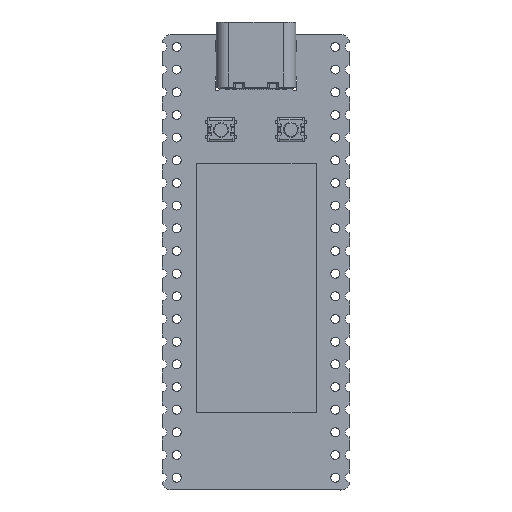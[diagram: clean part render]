
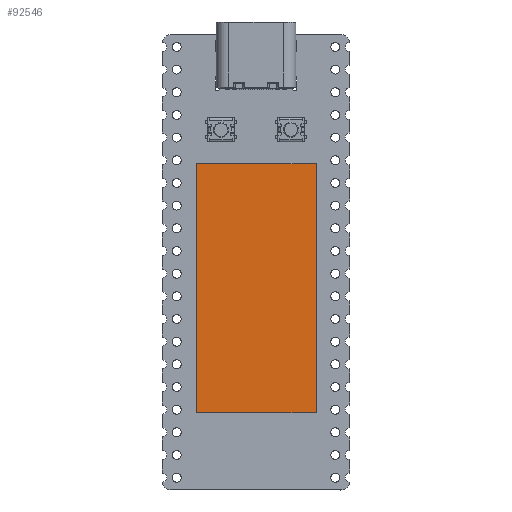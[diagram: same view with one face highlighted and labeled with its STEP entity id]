
A CAD part, top view. The second image highlights one B-rep face of the part: STEP entity #92546.
In plain terms, the highlighted planar face has unit normal (0, 0, 1).
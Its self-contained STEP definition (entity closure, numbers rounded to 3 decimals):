
#92232 = VERTEX_POINT('',#92233);
#92233 = CARTESIAN_POINT('',(-6.715,-13.954,0.425));
#92240 = PLANE('',#92241);
#92241 = AXIS2_PLACEMENT_3D('',#92242,#92243,#92244);
#92242 = CARTESIAN_POINT('',(-6.715,-13.954,0.));
#92243 = DIRECTION('',(-1.,0.,0.));
#92244 = DIRECTION('',(0.,1.,0.));
#92252 = PLANE('',#92253);
#92253 = AXIS2_PLACEMENT_3D('',#92254,#92255,#92256);
#92254 = CARTESIAN_POINT('',(6.715,-13.954,0.));
#92255 = DIRECTION('',(0.,-1.,0.));
#92256 = DIRECTION('',(-1.,0.,0.));
#92264 = EDGE_CURVE('',#92232,#92265,#92267,.T.);
#92265 = VERTEX_POINT('',#92266);
#92266 = CARTESIAN_POINT('',(-6.715,13.954,0.425));
#92267 = SURFACE_CURVE('',#92268,(#92272,#92279),.PCURVE_S1.);
#92268 = LINE('',#92269,#92270);
#92269 = CARTESIAN_POINT('',(-6.715,-13.954,0.425));
#92270 = VECTOR('',#92271,1.);
#92271 = DIRECTION('',(0.,1.,0.));
#92272 = PCURVE('',#92240,#92273);
#92273 = DEFINITIONAL_REPRESENTATION('',(#92274),#92278);
#92274 = LINE('',#92275,#92276);
#92275 = CARTESIAN_POINT('',(0.,-0.425));
#92276 = VECTOR('',#92277,1.);
#92277 = DIRECTION('',(1.,0.));
#92278 = ( GEOMETRIC_REPRESENTATION_CONTEXT(2) 
PARAMETRIC_REPRESENTATION_CONTEXT() REPRESENTATION_CONTEXT('2D SPACE',''
  ) );
#92279 = PCURVE('',#92280,#92285);
#92280 = PLANE('',#92281);
#92281 = AXIS2_PLACEMENT_3D('',#92282,#92283,#92284);
#92282 = CARTESIAN_POINT('',(-6.715,-13.954,0.425));
#92283 = DIRECTION('',(0.,0.,1.));
#92284 = DIRECTION('',(1.,0.,0.));
#92285 = DEFINITIONAL_REPRESENTATION('',(#92286),#92290);
#92286 = LINE('',#92287,#92288);
#92287 = CARTESIAN_POINT('',(0.,0.));
#92288 = VECTOR('',#92289,1.);
#92289 = DIRECTION('',(0.,1.));
#92290 = ( GEOMETRIC_REPRESENTATION_CONTEXT(2) 
PARAMETRIC_REPRESENTATION_CONTEXT() REPRESENTATION_CONTEXT('2D SPACE',''
  ) );
#92308 = PLANE('',#92309);
#92309 = AXIS2_PLACEMENT_3D('',#92310,#92311,#92312);
#92310 = CARTESIAN_POINT('',(-6.715,13.954,0.));
#92311 = DIRECTION('',(0.,1.,0.));
#92312 = DIRECTION('',(1.,0.,0.));
#92350 = EDGE_CURVE('',#92265,#92351,#92353,.T.);
#92351 = VERTEX_POINT('',#92352);
#92352 = CARTESIAN_POINT('',(6.715,13.954,0.425));
#92353 = SURFACE_CURVE('',#92354,(#92358,#92365),.PCURVE_S1.);
#92354 = LINE('',#92355,#92356);
#92355 = CARTESIAN_POINT('',(-6.715,13.954,0.425));
#92356 = VECTOR('',#92357,1.);
#92357 = DIRECTION('',(1.,0.,0.));
#92358 = PCURVE('',#92308,#92359);
#92359 = DEFINITIONAL_REPRESENTATION('',(#92360),#92364);
#92360 = LINE('',#92361,#92362);
#92361 = CARTESIAN_POINT('',(0.,-0.425));
#92362 = VECTOR('',#92363,1.);
#92363 = DIRECTION('',(1.,0.));
#92364 = ( GEOMETRIC_REPRESENTATION_CONTEXT(2) 
PARAMETRIC_REPRESENTATION_CONTEXT() REPRESENTATION_CONTEXT('2D SPACE',''
  ) );
#92365 = PCURVE('',#92280,#92366);
#92366 = DEFINITIONAL_REPRESENTATION('',(#92367),#92371);
#92367 = LINE('',#92368,#92369);
#92368 = CARTESIAN_POINT('',(0.,27.908));
#92369 = VECTOR('',#92370,1.);
#92370 = DIRECTION('',(1.,0.));
#92371 = ( GEOMETRIC_REPRESENTATION_CONTEXT(2) 
PARAMETRIC_REPRESENTATION_CONTEXT() REPRESENTATION_CONTEXT('2D SPACE',''
  ) );
#92389 = PLANE('',#92390);
#92390 = AXIS2_PLACEMENT_3D('',#92391,#92392,#92393);
#92391 = CARTESIAN_POINT('',(6.715,13.954,0.));
#92392 = DIRECTION('',(1.,0.,0.));
#92393 = DIRECTION('',(0.,-1.,0.));
#92426 = EDGE_CURVE('',#92351,#92427,#92429,.T.);
#92427 = VERTEX_POINT('',#92428);
#92428 = CARTESIAN_POINT('',(6.715,-13.954,0.425));
#92429 = SURFACE_CURVE('',#92430,(#92434,#92441),.PCURVE_S1.);
#92430 = LINE('',#92431,#92432);
#92431 = CARTESIAN_POINT('',(6.715,13.954,0.425));
#92432 = VECTOR('',#92433,1.);
#92433 = DIRECTION('',(0.,-1.,0.));
#92434 = PCURVE('',#92389,#92435);
#92435 = DEFINITIONAL_REPRESENTATION('',(#92436),#92440);
#92436 = LINE('',#92437,#92438);
#92437 = CARTESIAN_POINT('',(0.,-0.425));
#92438 = VECTOR('',#92439,1.);
#92439 = DIRECTION('',(1.,0.));
#92440 = ( GEOMETRIC_REPRESENTATION_CONTEXT(2) 
PARAMETRIC_REPRESENTATION_CONTEXT() REPRESENTATION_CONTEXT('2D SPACE',''
  ) );
#92441 = PCURVE('',#92280,#92442);
#92442 = DEFINITIONAL_REPRESENTATION('',(#92443),#92447);
#92443 = LINE('',#92444,#92445);
#92444 = CARTESIAN_POINT('',(13.429,27.908));
#92445 = VECTOR('',#92446,1.);
#92446 = DIRECTION('',(0.,-1.));
#92447 = ( GEOMETRIC_REPRESENTATION_CONTEXT(2) 
PARAMETRIC_REPRESENTATION_CONTEXT() REPRESENTATION_CONTEXT('2D SPACE',''
  ) );
#92497 = EDGE_CURVE('',#92427,#92232,#92498,.T.);
#92498 = SURFACE_CURVE('',#92499,(#92503,#92510),.PCURVE_S1.);
#92499 = LINE('',#92500,#92501);
#92500 = CARTESIAN_POINT('',(6.715,-13.954,0.425));
#92501 = VECTOR('',#92502,1.);
#92502 = DIRECTION('',(-1.,0.,0.));
#92503 = PCURVE('',#92252,#92504);
#92504 = DEFINITIONAL_REPRESENTATION('',(#92505),#92509);
#92505 = LINE('',#92506,#92507);
#92506 = CARTESIAN_POINT('',(0.,-0.425));
#92507 = VECTOR('',#92508,1.);
#92508 = DIRECTION('',(1.,0.));
#92509 = ( GEOMETRIC_REPRESENTATION_CONTEXT(2) 
PARAMETRIC_REPRESENTATION_CONTEXT() REPRESENTATION_CONTEXT('2D SPACE',''
  ) );
#92510 = PCURVE('',#92280,#92511);
#92511 = DEFINITIONAL_REPRESENTATION('',(#92512),#92516);
#92512 = LINE('',#92513,#92514);
#92513 = CARTESIAN_POINT('',(13.429,0.));
#92514 = VECTOR('',#92515,1.);
#92515 = DIRECTION('',(-1.,0.));
#92516 = ( GEOMETRIC_REPRESENTATION_CONTEXT(2) 
PARAMETRIC_REPRESENTATION_CONTEXT() REPRESENTATION_CONTEXT('2D SPACE',''
  ) );
#92546 = ADVANCED_FACE('',(#92547),#92280,.T.);
#92547 = FACE_BOUND('',#92548,.F.);
#92548 = EDGE_LOOP('',(#92549,#92550,#92551,#92552));
#92549 = ORIENTED_EDGE('',*,*,#92264,.T.);
#92550 = ORIENTED_EDGE('',*,*,#92350,.T.);
#92551 = ORIENTED_EDGE('',*,*,#92426,.T.);
#92552 = ORIENTED_EDGE('',*,*,#92497,.T.);
